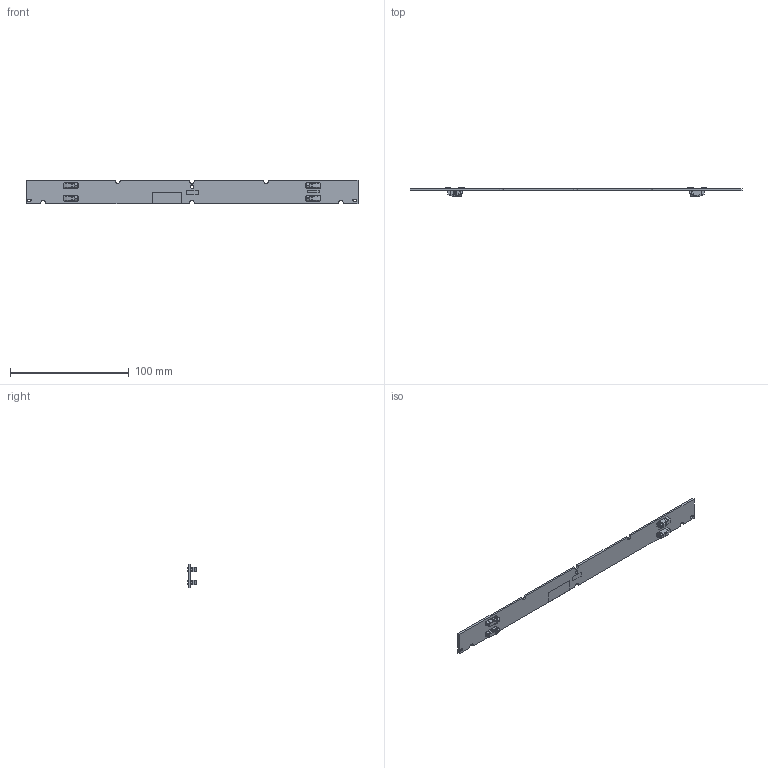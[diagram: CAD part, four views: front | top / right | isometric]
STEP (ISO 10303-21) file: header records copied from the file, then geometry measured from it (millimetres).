
FILE_DESCRIPTION((''),'2;1');
FILE_NAME('WU-M-643-BC_3D-MODEL_ASM','2020-05-06T11:37:09',('msavic'),(''),'CREO PARAMETRIC BY PTC INC, 2016510','CREO PARAMETRIC BY PTC INC, 2016510','');
FILE_SCHEMA(('AUTOMOTIVE_DESIGN { 1 0 10303 214 1 1 1 1 }'));
Products named in the file (19): 1234567A_22; ASM0003_ASM_2_ASM; MCU_0805_1; PRT0003_7777777777777_12; PRT0003_444444444444444_13; DIODA_2; STW8C2PB-E1_2; CE-ZEICHEN-6MM_2_4; CE-ZEICHEN-6MM001_2_4; VSO-LOGO-5MM_3_3; VSO-LOGO-5MM001_2_1_3; BUILT-IN_LED_MODULE-5MM004_2_2; BUILT-IN_LED_MODULE-5MM003_2_2; BUILT-IN_LED_MODULE-5MM002_2_2; BUILT-IN_LED_MODULE-5MM001_2_2; BC_CON__1; TXTWUM_13; ASM0004_ASM_33_ASM; WU-M-643-BC_3D-MODEL_ASM
Assembly tree (59 placements, depth 4):
  WU-M-643-BC_3D-MODEL_ASM
    ASM0004_ASM_33_ASM
      ASM0003_ASM_2_ASM
        1234567A_22
      MCU_0805_1  x4
      PRT0003_7777777777777_12
      PRT0003_444444444444444_13
      DIODA_2  x18
      STW8C2PB-E1_2  x18
      CE-ZEICHEN-6MM_2_4
      CE-ZEICHEN-6MM001_2_4
      VSO-LOGO-5MM_3_3
      VSO-LOGO-5MM001_2_1_3
      BUILT-IN_LED_MODULE-5MM004_2_2
      BUILT-IN_LED_MODULE-5MM003_2_2
      BUILT-IN_LED_MODULE-5MM002_2_2
      BUILT-IN_LED_MODULE-5MM001_2_2  x2
      BC_CON__1  x4
      TXTWUM_13
Bounding box: 279 x 7.43 x 20 mm (x, y, z)
Volume: 9756 mm3; surface area: 16020.8 mm2
Topology: 57 solids, 57 shells, 5933 faces, 16835 edges, 11558 vertices
Faces by surface type: plane 5586, cylinder 257, extrusion 66, bspline 24
Entity records: 129312 total; most frequent: CARTESIAN_POINT 23667, ORIENTED_EDGE 21520, DIRECTION 18546, EDGE_CURVE 10760, VECTOR 10314, LINE 10290, VERTEX_POINT 7190, AXIS2_PLACEMENT_3D 4116
